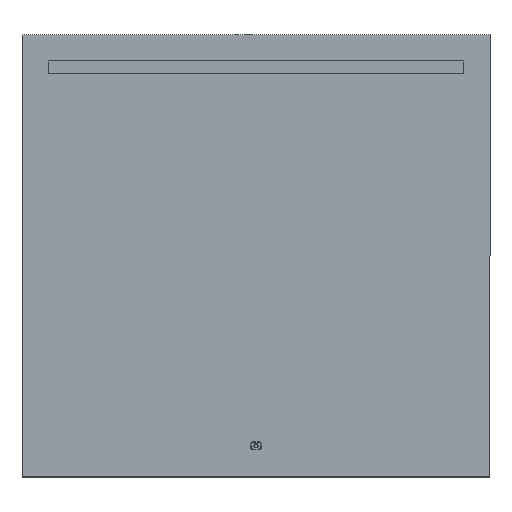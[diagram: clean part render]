
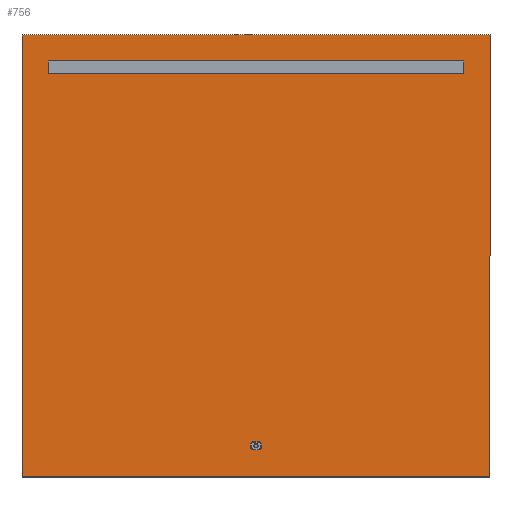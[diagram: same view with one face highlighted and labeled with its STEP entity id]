
A CAD part, top view. The second image highlights one B-rep face of the part: STEP entity #756.
In plain terms, the highlighted planar face has unit normal (0, 0, 1).
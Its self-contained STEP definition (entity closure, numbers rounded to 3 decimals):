
#44 = CARTESIAN_POINT ( 'NONE',  ( 450., 425., 2.5 ) ) ;
#87 = EDGE_CURVE ( 'NONE', #2290, #6627, #1936, .T. ) ;
#118 = VECTOR ( 'NONE', #6377, 1000. ) ;
#184 = EDGE_CURVE ( 'NONE', #6627, #2053, #7025, .T. ) ;
#250 = EDGE_CURVE ( 'NONE', #5277, #276, #3300, .T. ) ;
#276 = VERTEX_POINT ( 'NONE', #3661 ) ;
#277 = ORIENTED_EDGE ( 'NONE', *, *, #4444, .F. ) ;
#305 = PLANE ( 'NONE',  #5452 ) ;
#367 = CARTESIAN_POINT ( 'NONE',  ( 0., 375., 2.5 ) ) ;
#409 = EDGE_LOOP ( 'NONE', ( #5619, #2923, #1952, #732, #1068, #3782, #277, #2999 ) ) ;
#425 = LINE ( 'NONE', #4897, #953 ) ;
#508 = VECTOR ( 'NONE', #2721, 1000. ) ;
#683 = CARTESIAN_POINT ( 'NONE',  ( -450., 425., 2.5 ) ) ;
#732 = ORIENTED_EDGE ( 'NONE', *, *, #1330, .F. ) ;
#755 = LINE ( 'NONE', #4102, #4714 ) ;
#756 = ADVANCED_FACE ( 'NONE', ( #4668, #2442, #3201 ), #305, .F. ) ;
#818 = AXIS2_PLACEMENT_3D ( 'NONE', #4515, #3426, #1808 ) ;
#819 = CARTESIAN_POINT ( 'NONE',  ( 0., 0., 2.5 ) ) ;
#825 = CARTESIAN_POINT ( 'NONE',  ( -450., -425., 2.5 ) ) ;
#872 = CARTESIAN_POINT ( 'NONE',  ( -400., 0., 2.5 ) ) ;
#948 = LINE ( 'NONE', #4884, #4137 ) ;
#953 = VECTOR ( 'NONE', #1653, 1000. ) ;
#972 = LINE ( 'NONE', #7120, #1852 ) ;
#1068 = ORIENTED_EDGE ( 'NONE', *, *, #5751, .F. ) ;
#1080 = DIRECTION ( 'NONE',  ( -1., 0., 0. ) ) ;
#1145 = CARTESIAN_POINT ( 'NONE',  ( -450., 425., 2.5 ) ) ;
#1146 = CIRCLE ( 'NONE', #3015, 4. ) ;
#1330 = EDGE_CURVE ( 'NONE', #1636, #5277, #425, .T. ) ;
#1335 = EDGE_CURVE ( 'NONE', #276, #2107, #5453, .T. ) ;
#1369 = EDGE_CURVE ( 'NONE', #2493, #2680, #1473, .T. ) ;
#1399 = DIRECTION ( 'NONE',  ( 1., 0., 0. ) ) ;
#1457 = VERTEX_POINT ( 'NONE', #6786 ) ;
#1473 = LINE ( 'NONE', #1145, #7013 ) ;
#1531 = CARTESIAN_POINT ( 'NONE',  ( 6., -368.5, 2.5 ) ) ;
#1636 = VERTEX_POINT ( 'NONE', #2438 ) ;
#1653 = DIRECTION ( 'NONE',  ( 1., 0., 0. ) ) ;
#1777 = CARTESIAN_POINT ( 'NONE',  ( 10., -361.5, 2.5 ) ) ;
#1808 = DIRECTION ( 'NONE',  ( -1., 0., 0. ) ) ;
#1833 = VECTOR ( 'NONE', #4786, 1000. ) ;
#1852 = VECTOR ( 'NONE', #6623, 1000. ) ;
#1853 = ORIENTED_EDGE ( 'NONE', *, *, #2808, .F. ) ;
#1855 = VECTOR ( 'NONE', #2336, 1000. ) ;
#1860 = ORIENTED_EDGE ( 'NONE', *, *, #2181, .T. ) ;
#1912 = DIRECTION ( 'NONE',  ( 0., -1., 0. ) ) ;
#1931 = DIRECTION ( 'NONE',  ( 0., 0., -1. ) ) ;
#1936 = LINE ( 'NONE', #872, #2177 ) ;
#1952 = ORIENTED_EDGE ( 'NONE', *, *, #250, .F. ) ;
#2053 = VERTEX_POINT ( 'NONE', #5585 ) ;
#2107 = VERTEX_POINT ( 'NONE', #1777 ) ;
#2177 = VECTOR ( 'NONE', #1912, 1000. ) ;
#2181 = EDGE_CURVE ( 'NONE', #2680, #5185, #948, .T. ) ;
#2276 = ORIENTED_EDGE ( 'NONE', *, *, #5787, .F. ) ;
#2290 = VERTEX_POINT ( 'NONE', #4234 ) ;
#2336 = DIRECTION ( 'NONE',  ( 0., 1., 0. ) ) ;
#2438 = CARTESIAN_POINT ( 'NONE',  ( -6., -372.5, 2.5 ) ) ;
#2442 = FACE_OUTER_BOUND ( 'NONE', #2512, .T. ) ;
#2447 = ORIENTED_EDGE ( 'NONE', *, *, #5278, .T. ) ;
#2450 = CARTESIAN_POINT ( 'NONE',  ( 6., -372.5, 2.5 ) ) ;
#2493 = VERTEX_POINT ( 'NONE', #44 ) ;
#2512 = EDGE_LOOP ( 'NONE', ( #5201, #6524, #1860, #2447 ) ) ;
#2680 = VERTEX_POINT ( 'NONE', #683 ) ;
#2708 = DIRECTION ( 'NONE',  ( 0., 0., 1. ) ) ;
#2721 = DIRECTION ( 'NONE',  ( 0., 1., 0. ) ) ;
#2752 = DIRECTION ( 'NONE',  ( -1., 0., 0. ) ) ;
#2808 = EDGE_CURVE ( 'NONE', #6091, #2290, #3114, .T. ) ;
#2919 = CARTESIAN_POINT ( 'NONE',  ( -6., -357.5, 2.5 ) ) ;
#2923 = ORIENTED_EDGE ( 'NONE', *, *, #1335, .F. ) ;
#2999 = ORIENTED_EDGE ( 'NONE', *, *, #6539, .F. ) ;
#3015 = AXIS2_PLACEMENT_3D ( 'NONE', #6383, #3696, #4812 ) ;
#3069 = VERTEX_POINT ( 'NONE', #4785 ) ;
#3114 = LINE ( 'NONE', #367, #4660 ) ;
#3115 = LINE ( 'NONE', #4247, #1833 ) ;
#3153 = DIRECTION ( 'NONE',  ( -1., 0., 0. ) ) ;
#3201 = FACE_BOUND ( 'NONE', #6602, .T. ) ;
#3300 = CIRCLE ( 'NONE', #3420, 4. ) ;
#3306 = LINE ( 'NONE', #6204, #1855 ) ;
#3420 = AXIS2_PLACEMENT_3D ( 'NONE', #1531, #6452, #3153 ) ;
#3426 = DIRECTION ( 'NONE',  ( 0., 0., 1. ) ) ;
#3480 = CARTESIAN_POINT ( 'NONE',  ( 450., -425., 2.5 ) ) ;
#3661 = CARTESIAN_POINT ( 'NONE',  ( 10., -368.5, 2.5 ) ) ;
#3696 = DIRECTION ( 'NONE',  ( 0., 0., 1. ) ) ;
#3768 = EDGE_CURVE ( 'NONE', #6328, #2493, #3115, .T. ) ;
#3782 = ORIENTED_EDGE ( 'NONE', *, *, #6585, .F. ) ;
#3916 = EDGE_CURVE ( 'NONE', #2107, #3069, #4479, .T. ) ;
#4069 = VERTEX_POINT ( 'NONE', #6113 ) ;
#4102 = CARTESIAN_POINT ( 'NONE',  ( -450., -425., 2.5 ) ) ;
#4126 = AXIS2_PLACEMENT_3D ( 'NONE', #7104, #2708, #1080 ) ;
#4137 = VECTOR ( 'NONE', #6260, 1000. ) ;
#4234 = CARTESIAN_POINT ( 'NONE',  ( -400., 375., 2.5 ) ) ;
#4247 = CARTESIAN_POINT ( 'NONE',  ( 450., -425., 2.5 ) ) ;
#4321 = CARTESIAN_POINT ( 'NONE',  ( 0., -357.5, 2.5 ) ) ;
#4444 = EDGE_CURVE ( 'NONE', #4855, #1457, #1146, .T. ) ;
#4479 = CIRCLE ( 'NONE', #4126, 4. ) ;
#4515 = CARTESIAN_POINT ( 'NONE',  ( -6., -368.5, 2.5 ) ) ;
#4660 = VECTOR ( 'NONE', #5308, 1000. ) ;
#4668 = FACE_BOUND ( 'NONE', #409, .T. ) ;
#4714 = VECTOR ( 'NONE', #1399, 1000. ) ;
#4785 = CARTESIAN_POINT ( 'NONE',  ( 6., -357.5, 2.5 ) ) ;
#4786 = DIRECTION ( 'NONE',  ( 0., 1., 0. ) ) ;
#4792 = ORIENTED_EDGE ( 'NONE', *, *, #184, .F. ) ;
#4812 = DIRECTION ( 'NONE',  ( -1., 0., 0. ) ) ;
#4855 = VERTEX_POINT ( 'NONE', #2919 ) ;
#4858 = CARTESIAN_POINT ( 'NONE',  ( 400., 375., 2.5 ) ) ;
#4884 = CARTESIAN_POINT ( 'NONE',  ( -450., -425., 2.5 ) ) ;
#4897 = CARTESIAN_POINT ( 'NONE',  ( 0., -372.5, 2.5 ) ) ;
#4993 = CARTESIAN_POINT ( 'NONE',  ( 10., 0., 2.5 ) ) ;
#5185 = VERTEX_POINT ( 'NONE', #825 ) ;
#5201 = ORIENTED_EDGE ( 'NONE', *, *, #3768, .T. ) ;
#5277 = VERTEX_POINT ( 'NONE', #2450 ) ;
#5278 = EDGE_CURVE ( 'NONE', #5185, #6328, #755, .T. ) ;
#5308 = DIRECTION ( 'NONE',  ( -1., 0., 0. ) ) ;
#5452 = AXIS2_PLACEMENT_3D ( 'NONE', #819, #1931, #5794 ) ;
#5453 = LINE ( 'NONE', #4993, #508 ) ;
#5471 = CARTESIAN_POINT ( 'NONE',  ( -400., 350., 2.5 ) ) ;
#5549 = DIRECTION ( 'NONE',  ( -1., 0., 0. ) ) ;
#5585 = CARTESIAN_POINT ( 'NONE',  ( 400., 350., 2.5 ) ) ;
#5619 = ORIENTED_EDGE ( 'NONE', *, *, #3916, .F. ) ;
#5659 = VECTOR ( 'NONE', #2752, 1000. ) ;
#5702 = ORIENTED_EDGE ( 'NONE', *, *, #87, .F. ) ;
#5751 = EDGE_CURVE ( 'NONE', #4069, #1636, #6816, .T. ) ;
#5787 = EDGE_CURVE ( 'NONE', #2053, #6091, #3306, .T. ) ;
#5794 = DIRECTION ( 'NONE',  ( -1., 0., 0. ) ) ;
#5833 = CARTESIAN_POINT ( 'NONE',  ( 0., 350., 2.5 ) ) ;
#6091 = VERTEX_POINT ( 'NONE', #4858 ) ;
#6113 = CARTESIAN_POINT ( 'NONE',  ( -10., -368.5, 2.5 ) ) ;
#6204 = CARTESIAN_POINT ( 'NONE',  ( 400., 0., 2.5 ) ) ;
#6260 = DIRECTION ( 'NONE',  ( 0., -1., 0. ) ) ;
#6328 = VERTEX_POINT ( 'NONE', #3480 ) ;
#6377 = DIRECTION ( 'NONE',  ( 1., 0., 0. ) ) ;
#6383 = CARTESIAN_POINT ( 'NONE',  ( -6., -361.5, 2.5 ) ) ;
#6452 = DIRECTION ( 'NONE',  ( 0., 0., 1. ) ) ;
#6524 = ORIENTED_EDGE ( 'NONE', *, *, #1369, .T. ) ;
#6539 = EDGE_CURVE ( 'NONE', #3069, #4855, #6955, .T. ) ;
#6585 = EDGE_CURVE ( 'NONE', #1457, #4069, #972, .T. ) ;
#6602 = EDGE_LOOP ( 'NONE', ( #2276, #4792, #5702, #1853 ) ) ;
#6623 = DIRECTION ( 'NONE',  ( 0., -1., 0. ) ) ;
#6627 = VERTEX_POINT ( 'NONE', #5471 ) ;
#6786 = CARTESIAN_POINT ( 'NONE',  ( -10., -361.5, 2.5 ) ) ;
#6816 = CIRCLE ( 'NONE', #818, 4. ) ;
#6955 = LINE ( 'NONE', #4321, #5659 ) ;
#7013 = VECTOR ( 'NONE', #5549, 1000. ) ;
#7025 = LINE ( 'NONE', #5833, #118 ) ;
#7104 = CARTESIAN_POINT ( 'NONE',  ( 6., -361.5, 2.5 ) ) ;
#7120 = CARTESIAN_POINT ( 'NONE',  ( -10., 0., 2.5 ) ) ;
